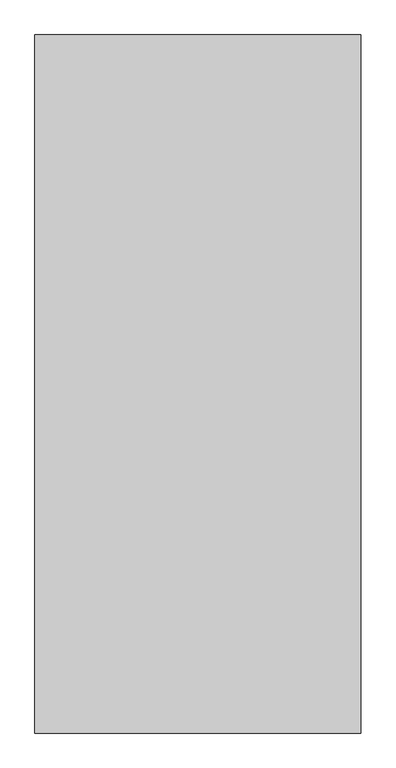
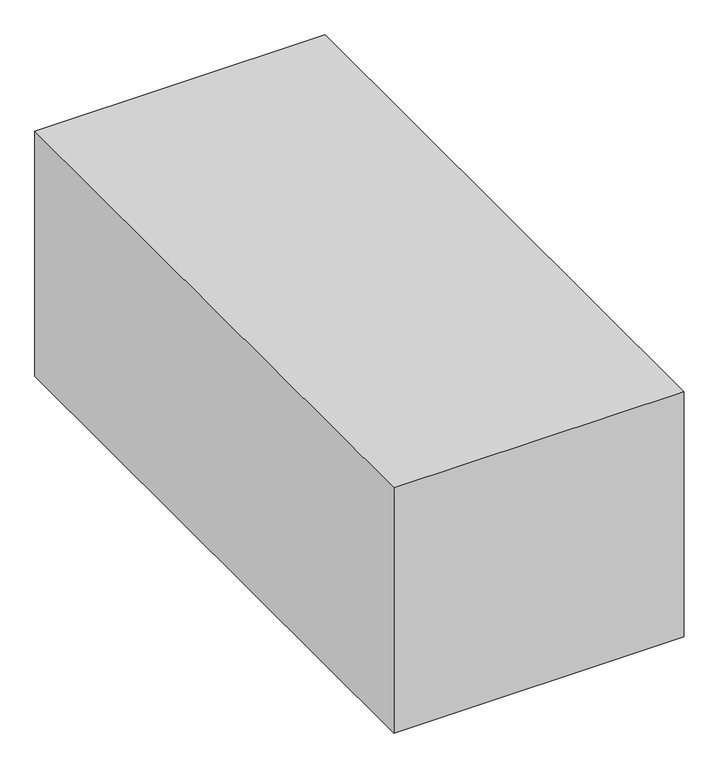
"""IFC4 building model written with IfcOpenShell, lengths in millimetres: proxy geometry, BIMHealth-Nurses_Station_Seating_Clearance_Zone-LOD2A-v1 : BIMHealth-Nurses_Station_Seating_Clearance_Zone-LOD2A-v1."""

from ifc_helpers import new_model, si_unit, origin, origin_with_axes, place, context, project, spatial, polyline, outline, extrude, source, transform, mapped, element, save


def generic_models_c4deb569(model_context):
    return source(origin(), model_context, "Body", "SweptSolid", [
        extrude(outline(polyline([(-700.0, 1500.0), (700.0, 1500.0), (700.0, -1500.0), (-700.0, -1500.0), (-700.0, 1500.0)])), origin_with_axes(), (0.0, 0.0, 1.0), 1250.0),
    ])


if __name__ == "__main__":
    model = new_model("IFC4")
    model_context = context("Model", 3, world=origin())
    ifc_project = project(units=[si_unit("LENGTHUNIT", "METRE", prefix="MILLI")], contexts=[model_context])
    site = spatial("IfcSite", under=ifc_project)
    building = spatial("IfcBuilding", under=site)
    placement = place(None, origin())
    generic_models_shape = generic_models_c4deb569(model_context)
    element("IfcBuildingElementProxy", 1, Name="BIMHealth-Nurses_Station_Seating_Clearance_Zone-LOD2A-v1 : BIMHealth-Nurses_Station_Seating_Clearance_Zone-LOD2A-v1", ObjectType="BIMHealth-Nurses_Station_Seating_Clearance_Zone-LOD2A-v1 : BIMHealth-Nurses_Station_Seating_Clearance_Zone-LOD2A-v1", at=placement, inside=building, context=model_context, shape_type="MappedRepresentation", body=[
        mapped(generic_models_shape, transform((0.0, 0.0, 0.0), x_axis=(1.0, 0.0, 0.0), y_axis=(0.0, 1.0, 0.0), z_axis=(0.0, 0.0, 1.0))),
    ])
    save(model, "model.ifc")
